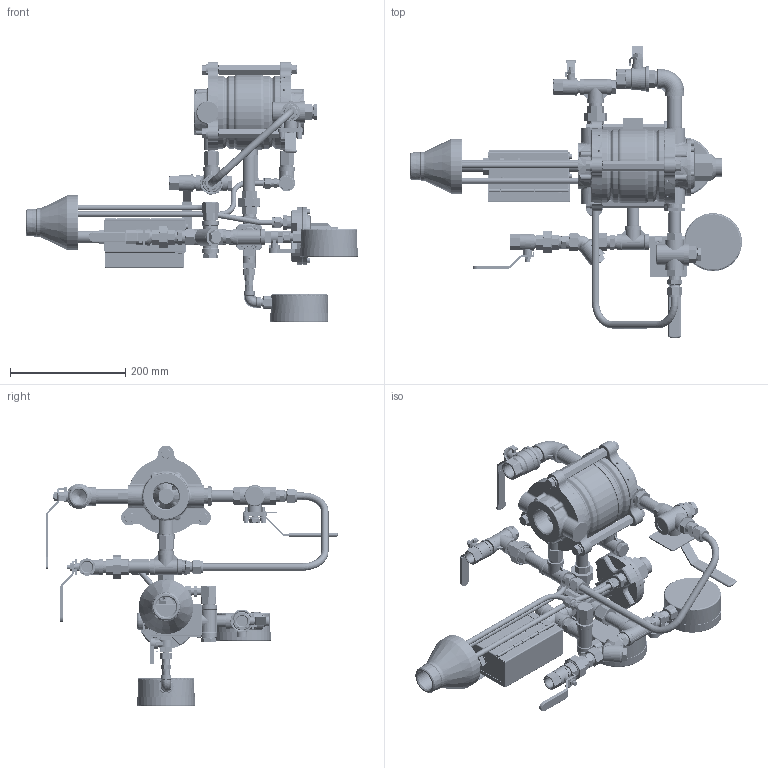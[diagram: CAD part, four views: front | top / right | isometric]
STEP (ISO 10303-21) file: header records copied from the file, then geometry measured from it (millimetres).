
FILE_DESCRIPTION(/* description */ (''),/* implementation_level */ '2;1');
FILE_NAME(/* name */ 'Z:\STANDARD SYSTEM\700DX-04B01\STEP\FM Trim\711DX-04B01 FM Trim 1_5in STEP_Shrinkwrap_1.stp',/* time_stamp */ '2022-10-26T11:10:52+03:00',/* author */ ('alex'),/* organization */ (''),/* preprocessor_version */ 'ST-DEVELOPER v16.13',/* originating_system */ 'Autodesk Inventor 2018',/* authorisation */ '');
FILE_SCHEMA (('AUTOMOTIVE_DESIGN { 1 0 10303 214 3 1 1 }'));
Products named in the file (1): 711DX-04B01 FM Trim 1_5in STEP_Shrinkwrap_1
Bounding box: 577.1 x 508.75 x 453.45 mm (x, y, z)
Volume: 3089407.7 mm3; surface area: 1224706.4 mm2
Topology: 152 solids, 153 shells, 5115 faces, 12152 edges, 7540 vertices
Faces by surface type: plane 2433, cone 1096, cylinder 1017, bspline 369, torus 186, sphere 14
Full cylindrical faces by diameter (mm): 0.375 x1, 3 x6, 3.242 x5, 4 x20, 4.1 x2, 4.134 x4, 4.2 x4, 4.5 x2, 4.978 x1, 5 x20, 5.08 x2, 5.2 x10, 5.25 x2, 5.5 x4, 5.8 x5, 6 x2, 6.35 x2, 6.4 x4, 6.5 x6, 6.647 x1, 6.88 x2, 7 x10, 7.036 x8, 7.3 x2, 7.5 x2, 7.6 x2, 8 x5, 8.1 x2, 8.376 x1, 8.5 x15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
Entity records: 152644 total; most frequent: CARTESIAN_POINT 39264, ORIENTED_EDGE 21664, DIRECTION 21551, EDGE_CURVE 10824, AXIS2_PLACEMENT_3D 8309, VERTEX_POINT 7279, EDGE_LOOP 6735, STYLED_ITEM 5244
